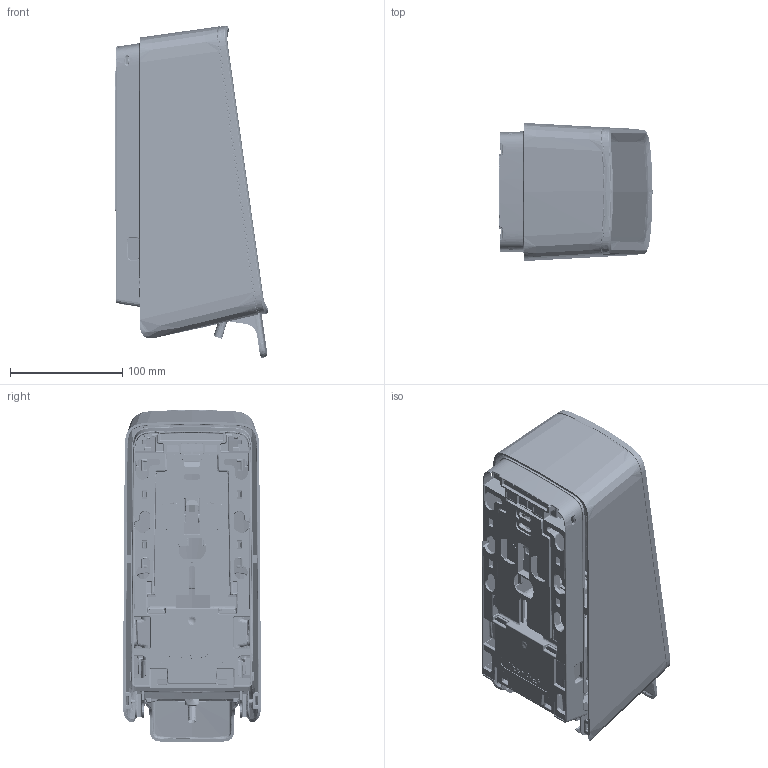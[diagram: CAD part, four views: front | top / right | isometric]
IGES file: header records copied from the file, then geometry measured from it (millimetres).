
Start section: SolidWorks IGES file using analytic representation for surfaces
Global section: file name: C:\Users\Markus.Rueckheim\OneDrive - CWS Group\Product Lines HY & FC\3000_Products\3600_Produktunterlagen\PureLine\Architektendaten\PureLine Liquid touch final.IGS; native system: SolidWorks 2023; preprocessor: SolidWorks 2023; author: Markus.Rueckheim; date: 241121.102133; units: millimetre
Bounding box: 136.5 x 123.2 x 295.95 mm (x, y, z)
Surface area: 438043 mm2 (no closed solid volume)
Topology: 0 solids, 0 shells, 11126 faces, 83917 edges, 83234 vertices
Faces by surface type: bspline 7280, revolution 3846
